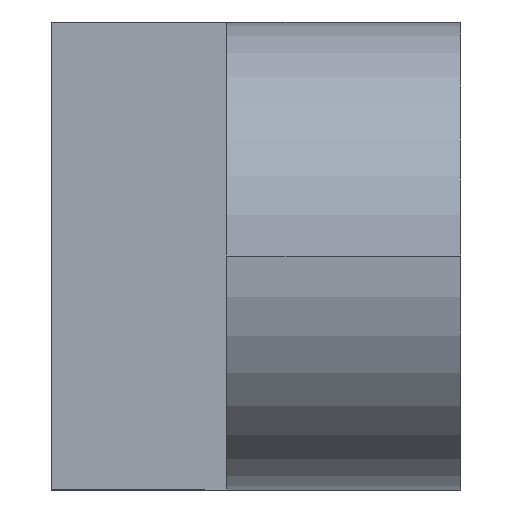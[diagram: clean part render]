
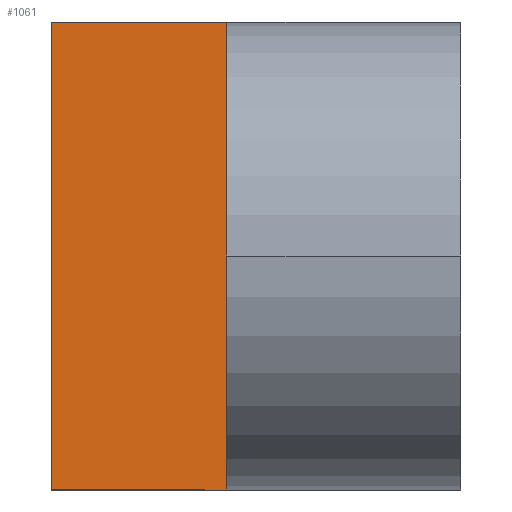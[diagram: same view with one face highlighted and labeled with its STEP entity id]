
A CAD part, left-side view. The second image highlights one B-rep face of the part: STEP entity #1061.
In plain terms, the highlighted planar face has unit normal (-1, 0, 0).
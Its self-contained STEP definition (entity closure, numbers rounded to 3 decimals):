
#38 = EDGE_CURVE ( 'NONE', #1269, #457, #368, .T. ) ;
#41 = DIRECTION ( 'NONE',  ( 0., -1., 0. ) ) ;
#84 = EDGE_CURVE ( 'NONE', #828, #1071, #804, .T. ) ;
#99 = CARTESIAN_POINT ( 'NONE',  ( -25., 35., -20. ) ) ;
#120 = FACE_OUTER_BOUND ( 'NONE', #1330, .T. ) ;
#126 = ORIENTED_EDGE ( 'NONE', *, *, #84, .T. ) ;
#132 = CARTESIAN_POINT ( 'NONE',  ( -25., 35., 20. ) ) ;
#147 = LINE ( 'NONE', #637, #1120 ) ;
#234 = CARTESIAN_POINT ( 'NONE',  ( -25., 20., 20. ) ) ;
#298 = CARTESIAN_POINT ( 'NONE',  ( -25., 35., -20. ) ) ;
#300 = LINE ( 'NONE', #99, #1295 ) ;
#306 = ORIENTED_EDGE ( 'NONE', *, *, #323, .T. ) ;
#323 = EDGE_CURVE ( 'NONE', #1071, #457, #147, .T. ) ;
#368 = LINE ( 'NONE', #507, #999 ) ;
#387 = ORIENTED_EDGE ( 'NONE', *, *, #409, .F. ) ;
#409 = EDGE_CURVE ( 'NONE', #828, #1269, #300, .T. ) ;
#457 = VERTEX_POINT ( 'NONE', #234 ) ;
#493 = DIRECTION ( 'NONE',  ( 0., 0., -1. ) ) ;
#507 = CARTESIAN_POINT ( 'NONE',  ( -25., 35., 20. ) ) ;
#637 = CARTESIAN_POINT ( 'NONE',  ( -25., 20., -20. ) ) ;
#804 = LINE ( 'NONE', #1277, #980 ) ;
#816 = CARTESIAN_POINT ( 'NONE',  ( -25., 20., -20. ) ) ;
#828 = VERTEX_POINT ( 'NONE', #1254 ) ;
#886 = AXIS2_PLACEMENT_3D ( 'NONE', #298, #1268, #493 ) ;
#980 = VECTOR ( 'NONE', #41, 1000. ) ;
#999 = VECTOR ( 'NONE', #1273, 1000. ) ;
#1061 = ADVANCED_FACE ( 'NONE', ( #120 ), #1076, .F. ) ;
#1071 = VERTEX_POINT ( 'NONE', #816 ) ;
#1076 = PLANE ( 'NONE',  #886 ) ;
#1120 = VECTOR ( 'NONE', #1210, 1000. ) ;
#1210 = DIRECTION ( 'NONE',  ( 0., 0., 1. ) ) ;
#1219 = DIRECTION ( 'NONE',  ( 0., 0., 1. ) ) ;
#1254 = CARTESIAN_POINT ( 'NONE',  ( -25., 35., -20. ) ) ;
#1268 = DIRECTION ( 'NONE',  ( 1., 0., 0. ) ) ;
#1269 = VERTEX_POINT ( 'NONE', #132 ) ;
#1273 = DIRECTION ( 'NONE',  ( 0., -1., 0. ) ) ;
#1277 = CARTESIAN_POINT ( 'NONE',  ( -25., 35., -20. ) ) ;
#1295 = VECTOR ( 'NONE', #1219, 1000. ) ;
#1330 = EDGE_LOOP ( 'NONE', ( #306, #1368, #387, #126 ) ) ;
#1368 = ORIENTED_EDGE ( 'NONE', *, *, #38, .F. ) ;
